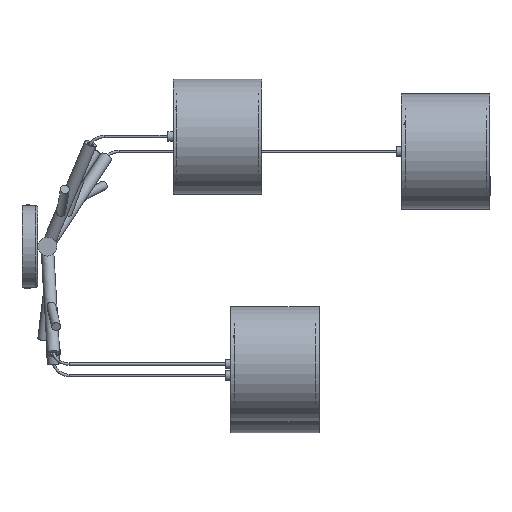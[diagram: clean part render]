
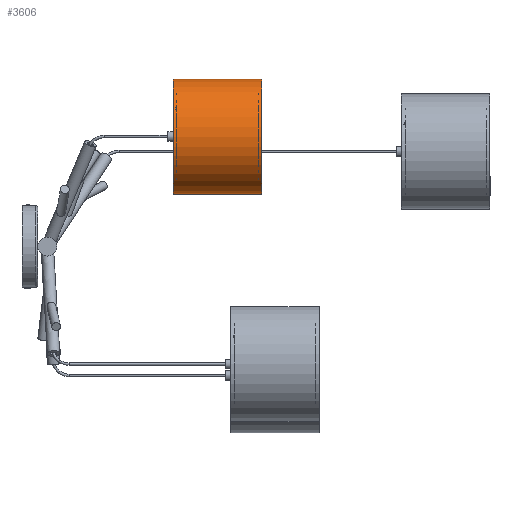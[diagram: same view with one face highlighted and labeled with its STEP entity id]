
A CAD part, left-side view. The second image highlights one B-rep face of the part: STEP entity #3606.
In plain terms, the highlighted cylindrical face has radius 91 mm (diameter 182 mm), a full revolution.
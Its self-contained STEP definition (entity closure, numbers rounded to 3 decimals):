
#557=FACE_OUTER_BOUND('',#859,.T.);
#859=EDGE_LOOP('',(#2933,#2934,#2935,#2936));
#1081=LINE('',#12289,#1210);
#1210=VECTOR('',#5013,91.);
#1402=CIRCLE('',#4088,91.);
#1403=CIRCLE('',#4089,91.);
#1737=VERTEX_POINT('',#12286);
#1738=VERTEX_POINT('',#12288);
#2160=EDGE_CURVE('',#1737,#1737,#1402,.T.);
#2161=EDGE_CURVE('',#1737,#1738,#1081,.T.);
#2162=EDGE_CURVE('',#1738,#1738,#1403,.T.);
#2933=ORIENTED_EDGE('',*,*,#2160,.F.);
#2934=ORIENTED_EDGE('',*,*,#2161,.T.);
#2935=ORIENTED_EDGE('',*,*,#2162,.F.);
#2936=ORIENTED_EDGE('',*,*,#2161,.F.);
#3404=CYLINDRICAL_SURFACE('',#4087,91.);
#3606=ADVANCED_FACE('',(#557),#3404,.T.);
#4087=AXIS2_PLACEMENT_3D('',#12285,#5009,#5010);
#4088=AXIS2_PLACEMENT_3D('',#12287,#5011,#5012);
#4089=AXIS2_PLACEMENT_3D('',#12290,#5014,#5015);
#5009=DIRECTION('center_axis',(0.,-1.,0.));
#5010=DIRECTION('ref_axis',(-0.5,0.,0.866));
#5011=DIRECTION('center_axis',(0.,-1.,0.));
#5012=DIRECTION('ref_axis',(-0.5,0.,0.866));
#5013=DIRECTION('',(0.,1.,0.));
#5014=DIRECTION('center_axis',(0.,1.,0.));
#5015=DIRECTION('ref_axis',(-0.5,0.,0.866));
#12285=CARTESIAN_POINT('Origin',(-295.937,-174.074,174.018));
#12286=CARTESIAN_POINT('',(-250.437,-314.074,95.209));
#12287=CARTESIAN_POINT('Origin',(-295.937,-314.074,174.018));
#12288=CARTESIAN_POINT('',(-250.437,-174.074,95.209));
#12289=CARTESIAN_POINT('',(-250.437,-174.074,95.209));
#12290=CARTESIAN_POINT('Origin',(-295.937,-174.074,174.018));
